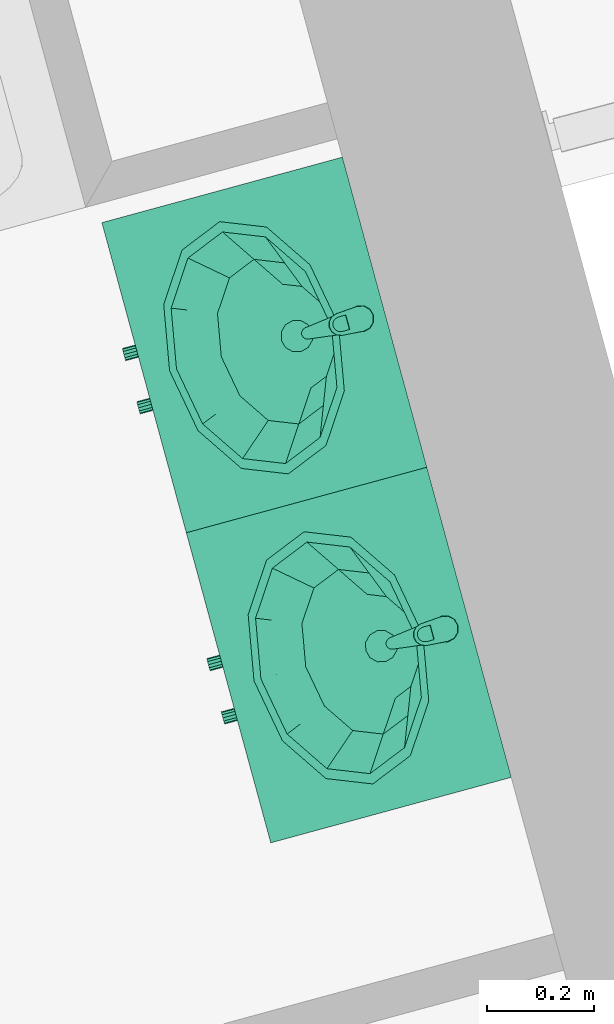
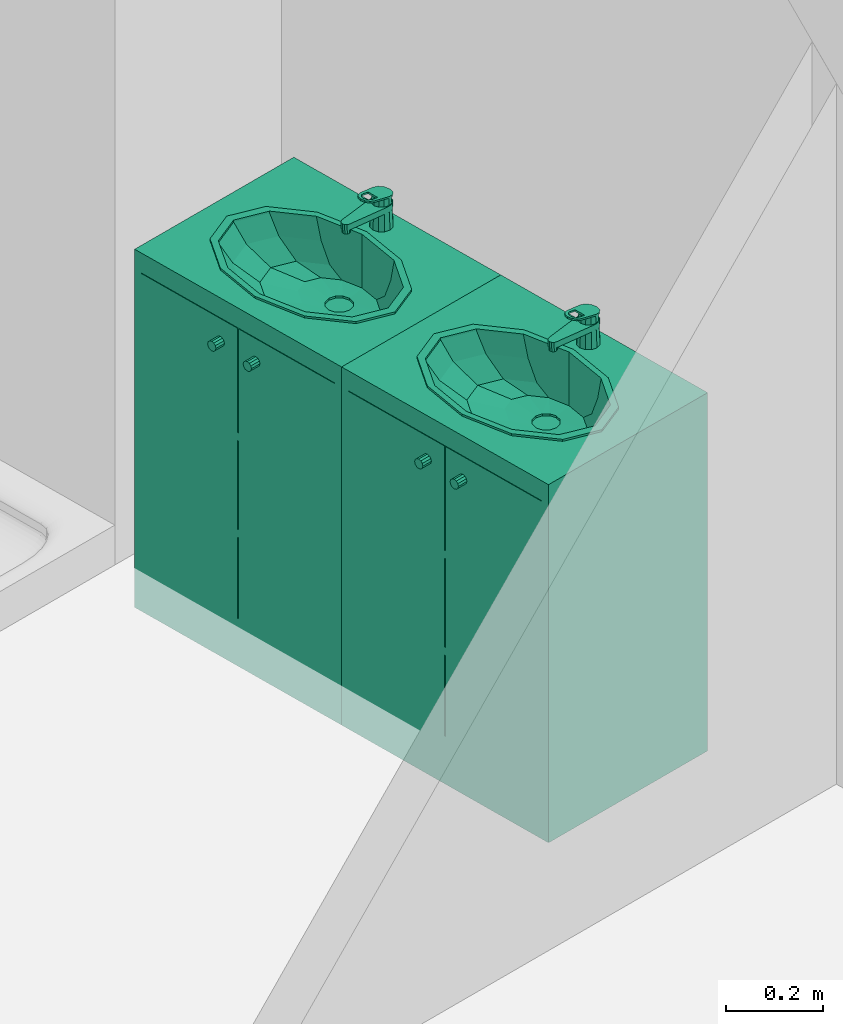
# One storey, part 93 of 121: 2 distribution elements.
"""IFC2X3 building model written with IfcOpenShell, lengths in metres."""

import ifcopenshell
import ifcopenshell.guid

model = None  # the IFC model being written
_history = None  # IfcOwnerHistory: only IFC2X3 demands one
_inside = {}  # id of a spatial element -> (the spatial element, [elements in it])
_under = {}  # id of a project, library or spatial element -> (it, [spatial elements below it])
_declared = {}  # id of a project -> (the project, [libraries it declares])
_typed = {}  # id of a type object -> (the type object, [elements of that type])
_made_of = {}  # id of a material, layer set ... -> (it, [elements and type objects made of it])


def new_model(schema):
    """Start an empty IFC model of exactly this schema.

    Asked for "IFC4X3", IfcOpenShell would pick the latest addendum, in which some entities
    have other attributes; the version numbers below select the first issue.
    IFC2X3 requires an IfcOwnerHistory on every rooted entity: one is made here for all.
    """
    global model, _history
    if schema == "IFC4X3":
        model = ifcopenshell.file(schema_version=(4, 3, 0, 0))
    else:
        model = ifcopenshell.file(schema=schema)
    _inside.clear()
    _under.clear()
    _declared.clear()
    _typed.clear()
    _made_of.clear()
    _history = None
    if model.schema == "IFC2X3":
        org = make("IfcOrganization", Name="unknown")
        user = make(
            "IfcPersonAndOrganization",
            ThePerson=make("IfcPerson", FamilyName="unknown"),
            TheOrganization=org,
        )
        app = make(
            "IfcApplication",
            ApplicationDeveloper=org,
            Version="unknown",
            ApplicationFullName="unknown",
            ApplicationIdentifier="unknown",
        )
        _history = make(
            "IfcOwnerHistory",
            OwningUser=user,
            OwningApplication=app,
            ChangeAction="ADDED",
            CreationDate=0,
        )
    return model


def make(cls, **values):
    """One entity of the class cls with the attributes given. An attribute that is None is left unset."""
    return model.create_entity(
        cls, **{name: value for name, value in values.items() if value is not None}
    )


def entity(cls, *values):
    """Any entity or typed value of the class cls, its attributes in the order of the schema. None: left unset."""
    e = model.create_entity(cls)
    for i, value in enumerate(values):
        if value is not None:
            e[i] = value
    return e


def rooted(cls, **values):
    """An entity with a GlobalId (a new one), such as an element, a storey or a relation."""
    return make(cls, GlobalId=ifcopenshell.guid.new(), OwnerHistory=_history, **values)


def si_unit(unit_type, name, prefix=None):
    """IfcSIUnit, for example si_unit("LENGTHUNIT", "METRE", prefix="MILLI")."""
    return make("IfcSIUnit", UnitType=unit_type, Prefix=prefix, Name=name)


def converted_unit(unit_type, name, factor, base, dimensions=None, offset=None):
    """IfcConversionBasedUnit, such as the inch: factor (a typed value) times the base unit."""
    return make(
        "IfcConversionBasedUnit"
        if offset is None
        else "IfcConversionBasedUnitWithOffset",
        ConversionOffset=offset,
        Dimensions=None
        if dimensions is None
        else entity("IfcDimensionalExponents", *dimensions),
        UnitType=unit_type,
        Name=name,
        ConversionFactor=make(
            "IfcMeasureWithUnit", ValueComponent=factor, UnitComponent=base
        ),
    )


def derived_unit(unit_type, elements):
    """IfcDerivedUnit: a product of units, each with its exponent."""
    return make(
        "IfcDerivedUnit",
        Elements=[
            make("IfcDerivedUnitElement", Unit=unit, Exponent=power)
            for unit, power in elements
        ],
        UnitType=unit_type,
    )


def money_unit(currency):
    """IfcMonetaryUnit."""
    return make("IfcMonetaryUnit", Currency=currency)


def assignment(units):
    """IfcUnitAssignment: the units of a project."""
    return None if units is None else make("IfcUnitAssignment", Units=units)


def point(xyz):
    """IfcCartesianPoint."""
    return None if xyz is None else make("IfcCartesianPoint", Coordinates=xyz)


def direction(xyz):
    """IfcDirection."""
    return None if xyz is None else make("IfcDirection", DirectionRatios=xyz)


def frame(location, z_axis=None, x_axis=None):
    """IfcAxis2Placement3D, a coordinate frame: its origin and axes. An axis left out is left unset."""
    return make(
        "IfcAxis2Placement3D",
        Location=point(location),
        Axis=direction(z_axis),
        RefDirection=direction(x_axis),
    )


def origin_with_axes():
    """The frame at (0, 0, 0) with the z axis (0, 0, 1) and the x axis (1, 0, 0) written out."""
    return frame((0.0, 0.0, 0.0), z_axis=(0.0, 0.0, 1.0), x_axis=(1.0, 0.0, 0.0))


def place(relative_to, where):
    """IfcLocalPlacement: puts the frame where relative to a parent placement (None: the world)."""
    return make(
        "IfcLocalPlacement", PlacementRelTo=relative_to, RelativePlacement=where
    )


def context(
    kind, dimensions, precision=None, world=None, true_north=None, identifier=None
):
    """IfcGeometricRepresentationContext, for example the 3D "Model" context."""
    return make(
        "IfcGeometricRepresentationContext",
        ContextIdentifier=identifier,
        ContextType=kind,
        CoordinateSpaceDimension=dimensions,
        Precision=precision,
        WorldCoordinateSystem=world,
        TrueNorth=true_north,
    )


def subcontext(parent, identifier, kind, view, scale=None):
    """IfcGeometricRepresentationSubContext, for example "Body" below "Model"."""
    return make(
        "IfcGeometricRepresentationSubContext",
        ContextIdentifier=identifier,
        ContextType=kind,
        ParentContext=parent,
        TargetScale=scale,
        TargetView=view,
    )


def project(units=None, contexts=None):
    """IfcProject with its units and contexts."""
    return rooted(
        "IfcProject",
        Name="project",
        RepresentationContexts=contexts,
        UnitsInContext=assignment(units),
    )


def spatial(cls, under=None, at=None, **own):
    """A site, building, storey or space (cls), placed at a placement, below another one or the project."""
    s = rooted(cls, ObjectPlacement=at, **own)
    if under is not None:
        _under.setdefault(under.id(), (under, []))[1].append(s)
    return s


def faces_of(points, faces, orient=None, outer=None):
    """IfcFace entities. A face is a list of loops; a loop is a list of indices into points, from 0.

    orient and outer hold one flag for each loop. By default every Orientation is true, the
    first loop of a face is its IfcFaceOuterBound and the others are IfcFaceBound.
    """
    made = []
    for i, loops in enumerate(faces):
        bounds = []
        for j, loop in enumerate(loops):
            is_outer = j == 0 if outer is None else outer[i][j]
            bounds.append(
                make(
                    "IfcFaceOuterBound" if is_outer else "IfcFaceBound",
                    Bound=make("IfcPolyLoop", Polygon=[points[k] for k in loop]),
                    Orientation=True if orient is None else orient[i][j],
                )
            )
        made.append(make("IfcFace", Bounds=bounds))
    return made


def open_shell(faces, orient=None, outer=None):
    """The faces of one IfcOpenShell. surface_model builds it on its shared points."""
    return ("IfcOpenShell", faces, orient, outer)


def faceted_brep(points, faces, orient=None, outer=None, voids=None):
    """IfcFacetedBrep: a solid bounded by flat faces; with voids (closed shells), ...WithVoids."""
    shared = [point(p) for p in points]
    hull = make("IfcClosedShell", CfsFaces=faces_of(shared, faces, orient, outer))
    if voids is None:
        return make("IfcFacetedBrep", Outer=hull)
    return make(
        "IfcFacetedBrepWithVoids",
        Outer=hull,
        Voids=[
            make(cls, CfsFaces=faces_of(shared, fs, o, b)) for cls, fs, o, b in voids
        ],
    )


def surface_model(cls, points, shells):
    """IfcFaceBasedSurfaceModel or IfcShellBasedSurfaceModel (cls): surfaces that need not close."""
    shared = [point(p) for p in points]
    made = [make(c, CfsFaces=faces_of(shared, fs, o, b)) for c, fs, o, b in shells]
    if cls == "IfcFaceBasedSurfaceModel":
        return make(cls, FbsmFaces=made)
    return make(cls, SbsmBoundary=made)


def shape(context_of_items, identifier, shape_type, items):
    """IfcShapeRepresentation: the items that make up one representation, for example the "Body"."""
    return make(
        "IfcShapeRepresentation",
        ContextOfItems=context_of_items,
        RepresentationIdentifier=identifier,
        RepresentationType=shape_type,
        Items=items,
    )


def source(mapping_origin, context_of_items, identifier, shape_type, items):
    """IfcRepresentationMap: a shape defined once, which mapped items show again and again."""
    return make(
        "IfcRepresentationMap",
        MappingOrigin=mapping_origin,
        MappedRepresentation=shape(context_of_items, identifier, shape_type, items),
    )


def transform(
    local_origin,
    x_axis=None,
    y_axis=None,
    z_axis=None,
    scale=None,
    scale2=None,
    scale3=None,
    uniform=True,
):
    """IfcCartesianTransformationOperator3D, or its non-uniform kind. x_axis, y_axis, z_axis: its Axis1, 2, 3."""
    if uniform:
        return make(
            "IfcCartesianTransformationOperator3D",
            Axis1=direction(x_axis),
            Axis2=direction(y_axis),
            LocalOrigin=point(local_origin),
            Scale=scale,
            Axis3=direction(z_axis),
        )
    return make(
        "IfcCartesianTransformationOperator3DnonUniform",
        Axis1=direction(x_axis),
        Axis2=direction(y_axis),
        LocalOrigin=point(local_origin),
        Scale=scale,
        Axis3=direction(z_axis),
        Scale2=scale2,
        Scale3=scale3,
    )


def mapped(mapping_source, mapping_target):
    """IfcMappedItem: shows the shape of a source again, moved by a transform."""
    return make(
        "IfcMappedItem", MappingSource=mapping_source, MappingTarget=mapping_target
    )


def made_of(thing, what):
    """Note that an element or type object is made of a material, layer set ...; save() writes the relation."""
    if what is not None:
        _made_of.setdefault(what.id(), (what, []))[1].append(thing)
    return thing


def type_object(cls, material=None, **own):
    """A type object (cls), such as IfcWallType, which elements share."""
    return made_of(rooted(cls, **own), material)


def element(
    cls,
    number,
    at=None,
    inside=None,
    cuts=None,
    type_object=None,
    material=None,
    context=None,
    identifier="Body",
    shape_type=None,
    held_by="IfcProductDefinitionShape",
    body=None,
    shapes=None,
    **own,
):
    """One element of the class cls, such as IfcWall. Its Tag is "e" and its number.

    at: its placement. inside: the storey or other place that contains it. cuts: it is an
    opening in that element (IfcRelVoidsElement). A single representation is given by context,
    identifier, shape_type and body (its items); several are given by shapes. held_by: the class
    of the entity that holds the representations. save() writes the other relations.
    """
    e = rooted(cls, Tag="e%d" % number, ObjectPlacement=at, **own)
    if body is not None:
        shapes = [shape(context, identifier, shape_type, body)]
    if shapes is not None:
        e.Representation = make(held_by, Representations=shapes)
    if inside is not None:
        _inside.setdefault(inside.id(), (inside, []))[1].append(e)
    if cuts is not None:
        rooted(
            "IfcRelVoidsElement", RelatingBuildingElement=cuts, RelatedOpeningElement=e
        )
    if type_object is not None:
        _typed.setdefault(type_object.id(), (type_object, []))[1].append(e)
    return made_of(e, material)


def aggregate(whole, parts):
    """IfcRelAggregates: a whole, such as a stair, and the parts it consists of."""
    return rooted("IfcRelAggregates", RelatingObject=whole, RelatedObjects=parts)


def save(model, path):
    """Write the relations noted so far, then the file.

    IfcRelAggregates (storeys below a building ...), IfcRelContainedInSpatialStructure (elements
    in a storey), IfcRelDefinesByType, IfcRelAssociatesMaterial and IfcRelDeclares: one each for
    every whole, place, type object, material and project.
    """
    for whole, parts in _under.values():
        aggregate(whole, parts)
    for where, things in _inside.values():
        rooted(
            "IfcRelContainedInSpatialStructure",
            RelatedElements=things,
            RelatingStructure=where,
        )
    for kind, things in _typed.values():
        rooted("IfcRelDefinesByType", RelatedObjects=things, RelatingType=kind)
    for what, things in _made_of.values():
        rooted("IfcRelAssociatesMaterial", RelatedObjects=things, RelatingMaterial=what)
    for by, libraries in _declared.values():
        rooted("IfcRelDeclares", RelatingContext=by, RelatedDefinitions=libraries)
    model.write(path)


model = new_model("IFC2X3")

# Units and contexts
model_context = context("Model", 3, precision=1e-05, world=origin_with_axes(), true_north=direction((0.0, 1.0)))
body_context = subcontext(model_context, "Body", "Model", "MODEL_VIEW")
ifc_project = project(units=[si_unit("LENGTHUNIT", "METRE"), si_unit("AREAUNIT", "SQUARE_METRE"), si_unit("VOLUMEUNIT", "CUBIC_METRE"), converted_unit("PLANEANGLEUNIT", "DEGREE", entity("IfcPlaneAngleMeasure", 0.0174532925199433), si_unit("PLANEANGLEUNIT", "RADIAN"), dimensions=[0, 0, 0, 0, 0, 0, 0]), money_unit("CHF"), converted_unit("TIMEUNIT", "Year", entity("IfcTimeMeasure", 31557600.0), si_unit("TIMEUNIT", "SECOND"), dimensions=[0, 0, 1, 0, 0, 0, 0]), si_unit("MASSUNIT", "GRAM", prefix="KILO"), si_unit("THERMODYNAMICTEMPERATUREUNIT", "DEGREE_CELSIUS"), si_unit("LUMINOUSINTENSITYUNIT", "LUMEN"), si_unit("ENERGYUNIT", "JOULE", prefix="MEGA"), derived_unit("THERMALCONDUCTANCEUNIT", [(si_unit("POWERUNIT", "WATT"), 1), (si_unit("LENGTHUNIT", "METRE"), -1), (si_unit("THERMODYNAMICTEMPERATUREUNIT", "KELVIN"), -1)]), derived_unit("SPECIFICHEATCAPACITYUNIT", [(si_unit("ENERGYUNIT", "JOULE"), 1), (si_unit("MASSUNIT", "GRAM", prefix="KILO"), -1), (si_unit("THERMODYNAMICTEMPERATUREUNIT", "KELVIN"), -1)]), derived_unit("MASSDENSITYUNIT", [(si_unit("MASSUNIT", "GRAM", prefix="KILO"), 1), (si_unit("VOLUMEUNIT", "CUBIC_METRE"), -1)])], contexts=[model_context])

# Site, building, storey
site_placement = place(None, origin_with_axes())
site = spatial("IfcSite", under=ifc_project, at=site_placement, Name="Site", CompositionType="ELEMENT")
building_placement = place(site_placement, origin_with_axes())
building = spatial("IfcBuilding", under=site, at=building_placement, Name="Bâtiment", CompositionType="ELEMENT")
storey_placement = place(building_placement, frame((0.0, 0.0, 2.75), z_axis=(0.0, 0.0, 1.0), x_axis=(1.0, 0.0, 0.0)))
storey = spatial("IfcBuildingStorey", under=building, at=storey_placement, Name="Etage 1", CompositionType="ELEMENT", Elevation=2.75)

# Distribution elements
distribution_element_type = type_object("IfcDistributionElementType", Name="Lavabo sur meuble 27")
shared_shape = source(origin_with_axes(), body_context, "Body", "SurfaceModel", [
    faceted_brep([(0.0, 0.0, 0.0), (0.0, 0.0, 0.1), (-0.6, 0.0, 0.1), (-0.6, 0.0, 0.0), (0.0, 0.4653441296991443, 0.0), (0.0, 0.4653441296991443, 0.1), (-0.6, 0.4653441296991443, 0.1), (-0.6, 0.4653441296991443, 0.0)], [[[0, 1, 2, 3]], [[4, 5, 1, 0]], [[1, 5, 6, 2]], [[3, 2, 6, 7]], [[0, 3, 7, 4]], [[7, 6, 5, 4]]]),
    faceted_brep([(0.0, 0.0, 0.1), (0.0, 0.0, 0.12), (-0.02, 0.0, 0.12), (-0.02, 0.0, 0.1), (0.0, 0.4653441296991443, 0.1), (0.0, 0.4653441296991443, 0.12), (-0.02, 0.4653441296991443, 0.12), (-0.58, 0.4653441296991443, 0.12), (-0.6, 0.4653441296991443, 0.12), (-0.6, 0.0, 0.12), (-0.58, 0.0, 0.12), (-0.58, 0.0, 0.1), (-0.6, 0.0, 0.1), (-0.6, 0.4653441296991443, 0.1), (-0.58, 0.4653441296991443, 0.1), (-0.02, 0.4653441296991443, 0.1)], [[[0, 1, 2, 3]], [[4, 5, 1, 0]], [[1, 5, 6, 7, 8, 9, 10, 2]], [[3, 2, 10, 11]], [[0, 3, 11, 12, 13, 14, 15, 4]], [[15, 6, 5, 4]], [[14, 7, 6, 15]], [[13, 8, 7, 14]], [[12, 9, 8, 13]], [[11, 10, 9, 12]]]),
    faceted_brep([(0.0, 0.0, 0.12), (0.0, 0.0, 0.85), (-0.02, 0.0, 0.85), (-0.02, 0.0, 0.12), (0.0, 0.4653441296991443, 0.12), (0.0, 0.4653441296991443, 0.85), (-0.6, 0.4653441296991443, 0.85), (-0.6, 0.0, 0.85), (-0.58, 0.0, 0.85), (-0.58, 0.4453441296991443, 0.85), (-0.02, 0.4453441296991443, 0.85), (-0.02, 0.4453441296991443, 0.12), (-0.58, 0.4453441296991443, 0.12), (-0.58, 0.0, 0.12), (-0.6, 0.0, 0.12), (-0.6, 0.4653441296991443, 0.12)], [[[0, 1, 2, 3]], [[4, 5, 1, 0]], [[1, 5, 6, 7, 8, 9, 10, 2]], [[3, 2, 10, 11]], [[0, 3, 11, 12, 13, 14, 15, 4]], [[15, 6, 5, 4]], [[14, 7, 6, 15]], [[13, 8, 7, 14]], [[12, 9, 8, 13]], [[11, 10, 9, 12]]]),
    faceted_brep([(-0.58, 0.0, 0.3233333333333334), (-0.58, 0.0, 0.3433333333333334), (-0.58, 0.4453441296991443, 0.3433333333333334), (-0.58, 0.4453441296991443, 0.3233333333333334), (-0.02, 0.0, 0.3233333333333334), (-0.02, 0.0, 0.3433333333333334), (-0.02, 0.4453441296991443, 0.3433333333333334), (-0.02, 0.4453441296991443, 0.3233333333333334)], [[[0, 1, 2, 3]], [[4, 5, 1, 0]], [[1, 5, 6, 2]], [[3, 2, 6, 7]], [[0, 3, 7, 4]], [[7, 6, 5, 4]]]),
    faceted_brep([(-0.58, 0.0, 0.5666666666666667), (-0.58, 0.0, 0.5866666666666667), (-0.58, 0.4453441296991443, 0.5866666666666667), (-0.58, 0.4453441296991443, 0.5666666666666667), (-0.02, 0.0, 0.5666666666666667), (-0.02, 0.0, 0.5866666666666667), (-0.02, 0.4453441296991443, 0.5866666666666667), (-0.02, 0.4453441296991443, 0.5666666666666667)], [[[0, 1, 2, 3]], [[4, 5, 1, 0]], [[1, 5, 6, 2]], [[3, 2, 6, 7]], [[0, 3, 7, 4]], [[7, 6, 5, 4]]]),
    faceted_brep([(0.0, 0.4653441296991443, 0.85), (0.0, 0.0, 0.85), (-0.6, 0.0, 0.85), (-0.6, 0.4653441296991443, 0.85), (-0.4124999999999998, 0.08276825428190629, 0.85), (-0.3, 0.06267206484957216, 0.85), (-0.1874999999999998, 0.08276825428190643, 0.85), (-0.1051442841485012, 0.1376720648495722, 0.85), (-0.07499999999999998, 0.2126720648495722, 0.85), (-0.1051442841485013, 0.2876720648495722, 0.85), (-0.1875000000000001, 0.342575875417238, 0.85), (-0.3, 0.3626720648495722, 0.85), (-0.4125, 0.3425758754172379, 0.85), (-0.4948557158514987, 0.2876720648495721, 0.85), (-0.525, 0.2126720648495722, 0.85), (-0.4948557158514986, 0.137672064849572, 0.85), (0.0, 0.4653441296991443, 0.9), (0.0, 0.0, 0.9), (-0.6, 0.0, 0.9), (-0.6, 0.4653441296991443, 0.9), (-0.3, 0.06267206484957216, 0.9), (-0.4124999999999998, 0.08276825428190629, 0.9), (-0.1874999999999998, 0.08276825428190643, 0.9), (-0.1051442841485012, 0.1376720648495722, 0.9), (-0.07499999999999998, 0.2126720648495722, 0.9), (-0.1051442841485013, 0.2876720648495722, 0.9), (-0.1875000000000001, 0.342575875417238, 0.9), (-0.3, 0.3626720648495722, 0.9), (-0.4125, 0.3425758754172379, 0.9), (-0.4948557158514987, 0.2876720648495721, 0.9), (-0.525, 0.2126720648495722, 0.9), (-0.4948557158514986, 0.137672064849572, 0.9)], [[[0, 1, 2, 3], [4, 5, 6, 7, 8, 9, 10, 11, 12, 13, 14, 15]], [[1, 0, 16, 17]], [[2, 1, 17, 18]], [[3, 2, 18, 19]], [[0, 3, 19, 16]], [[20, 5, 4, 21]], [[22, 6, 5, 20]], [[23, 7, 6, 22]], [[24, 8, 7, 23]], [[25, 9, 8, 24]], [[26, 10, 9, 25]], [[27, 11, 10, 26]], [[28, 12, 11, 27]], [[29, 13, 12, 28]], [[30, 14, 13, 29]], [[31, 15, 14, 30]], [[21, 4, 15, 31]], [[18, 17, 16, 19], [28, 27, 26, 25, 24, 23, 22, 20, 21, 31, 30, 29]]]),
    faceted_brep([(-0.544, 0.2126720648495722, 0.905), (-0.511310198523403, 0.2943684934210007, 0.905), (-0.511310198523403, 0.2943684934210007, 0.9), (-0.544, 0.2126720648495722, 0.9), (-0.5113101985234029, 0.1309756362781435, 0.905), (-0.4219999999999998, 0.07116969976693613, 0.905), (-0.3, 0.04927920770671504, 0.905), (-0.1779999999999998, 0.07116969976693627, 0.905), (-0.08868980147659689, 0.1309756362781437, 0.905), (-0.05599999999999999, 0.2126720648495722, 0.905), (-0.088689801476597, 0.2943684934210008, 0.905), (-0.178, 0.3541744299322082, 0.905), (-0.3, 0.3760649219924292, 0.905), (-0.422, 0.3541744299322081, 0.905), (-0.524, 0.2126720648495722, 0.905), (-0.4939896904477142, 0.2876720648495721, 0.905), (-0.412, 0.3425758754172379, 0.905), (-0.3, 0.3626720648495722, 0.905), (-0.1880000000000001, 0.342575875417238, 0.905), (-0.1060103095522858, 0.2876720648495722, 0.905), (-0.07599999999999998, 0.2126720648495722, 0.905), (-0.1060103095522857, 0.1376720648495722, 0.905), (-0.1879999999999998, 0.08276825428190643, 0.905), (-0.3, 0.06267206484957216, 0.905), (-0.4119999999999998, 0.08276825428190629, 0.905), (-0.4939896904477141, 0.137672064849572, 0.905), (-0.422, 0.3541744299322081, 0.9), (-0.3, 0.3760649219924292, 0.9), (-0.178, 0.3541744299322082, 0.9), (-0.088689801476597, 0.2943684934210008, 0.9), (-0.05599999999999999, 0.2126720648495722, 0.9), (-0.08868980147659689, 0.1309756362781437, 0.9), (-0.1779999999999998, 0.07116969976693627, 0.9), (-0.3, 0.04927920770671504, 0.9), (-0.4219999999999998, 0.07116969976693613, 0.9), (-0.5113101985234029, 0.1309756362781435, 0.9), (-0.524, 0.2126720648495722, 0.9), (-0.4939896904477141, 0.137672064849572, 0.9), (-0.4119999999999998, 0.08276825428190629, 0.9), (-0.3, 0.06267206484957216, 0.9), (-0.1879999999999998, 0.08276825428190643, 0.9), (-0.1060103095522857, 0.1376720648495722, 0.9), (-0.07599999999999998, 0.2126720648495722, 0.9), (-0.1060103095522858, 0.2876720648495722, 0.9), (-0.1880000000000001, 0.342575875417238, 0.9), (-0.3, 0.3626720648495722, 0.9), (-0.412, 0.3425758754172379, 0.9), (-0.4939896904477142, 0.2876720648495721, 0.9)], [[[0, 1, 2, 3]], [[0, 4, 5, 6, 7, 8, 9, 10, 11, 12, 13, 1], [14, 15, 16, 17, 18, 19, 20, 21, 22, 23, 24, 25]], [[1, 13, 26, 2]], [[3, 2, 26, 27, 28, 29, 30, 31, 32, 33, 34, 35], [36, 37, 38, 39, 40, 41, 42, 43, 44, 45, 46, 47]], [[4, 0, 3, 35]], [[5, 4, 35, 34]], [[6, 5, 34, 33]], [[7, 6, 33, 32]], [[8, 7, 32, 31]], [[9, 8, 31, 30]], [[10, 9, 30, 29]], [[11, 10, 29, 28]], [[12, 11, 28, 27]], [[13, 12, 27, 26]], [[15, 14, 36, 47]], [[16, 15, 47, 46]], [[17, 16, 46, 45]], [[18, 17, 45, 44]], [[19, 18, 44, 43]], [[20, 19, 43, 42]], [[21, 20, 42, 41]], [[22, 21, 41, 40]], [[23, 22, 40, 39]], [[24, 23, 39, 38]], [[25, 24, 38, 37]], [[14, 25, 37, 36]]]),
    surface_model("IfcShellBasedSurfaceModel", [(-0.3, 0.3626720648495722, 0.9), (-0.412, 0.342575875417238, 0.9), (-0.4008, 0.3445854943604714, 0.848), (-0.3, 0.3626720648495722, 0.848), (-0.4939896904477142, 0.2876720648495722, 0.9), (-0.4745907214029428, 0.2951720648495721, 0.848), (-0.1879999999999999, 0.3425758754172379, 0.9), (-0.1991999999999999, 0.3445854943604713, 0.848), (-0.524, 0.2126720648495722, 0.9), (-0.5016, 0.2276720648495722, 0.848), (-0.1060103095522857, 0.2876720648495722, 0.9), (-0.1254092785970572, 0.2951720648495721, 0.848), (-0.4939896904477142, 0.1376720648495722, 0.9), (-0.4745907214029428, 0.1601720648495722, 0.848), (-0.07599999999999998, 0.2126720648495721, 0.9), (-0.09839999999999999, 0.2276720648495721, 0.848), (-0.412, 0.08276825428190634, 0.9), (-0.4008, 0.1107586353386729, 0.848), (-0.1060103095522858, 0.1376720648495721, 0.9), (-0.1254092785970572, 0.1601720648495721, 0.848), (-0.3, 0.06267206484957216, 0.9), (-0.3, 0.09267206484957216, 0.848), (-0.1879999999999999, 0.08276825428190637, 0.9), (-0.1992, 0.110758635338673, 0.848)], [open_shell([[[0, 1, 2, 3]], [[1, 4, 5, 2]], [[6, 0, 3, 7]], [[4, 8, 9, 5]], [[10, 6, 7, 11]], [[8, 12, 13, 9]], [[14, 10, 11, 15]], [[12, 16, 17, 13]], [[18, 14, 15, 19]], [[16, 20, 21, 17]], [[22, 18, 19, 23]], [[20, 22, 23, 21]]])]),
    surface_model("IfcShellBasedSurfaceModel", [(-0.3, 0.3626720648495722, 0.848), (-0.4008, 0.3445854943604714, 0.848), (-0.379632, 0.3483836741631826, 0.7959999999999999), (-0.3, 0.3626720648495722, 0.7959999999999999), (-0.4745907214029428, 0.2951720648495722, 0.848), (-0.4379266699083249, 0.3093470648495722, 0.7959999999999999), (-0.1991999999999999, 0.3445854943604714, 0.848), (-0.2203679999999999, 0.3483836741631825, 0.7959999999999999), (-0.5016, 0.2276720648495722, 0.848), (-0.459264, 0.2560220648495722, 0.7959999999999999), (-0.1254092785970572, 0.2951720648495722, 0.848), (-0.1620733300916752, 0.3093470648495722, 0.7959999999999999), (-0.4745907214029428, 0.1601720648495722, 0.848), (-0.4379266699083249, 0.2026970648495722, 0.7959999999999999), (-0.09839999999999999, 0.2276720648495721, 0.848), (-0.140736, 0.2560220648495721, 0.7959999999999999), (-0.4008, 0.1107586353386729, 0.848), (-0.379632, 0.1636604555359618, 0.7959999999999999), (-0.1254092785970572, 0.1601720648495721, 0.848), (-0.1620733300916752, 0.2026970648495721, 0.7959999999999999), (-0.3, 0.09267206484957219, 0.848), (-0.3, 0.1493720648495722, 0.7959999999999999), (-0.1992, 0.110758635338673, 0.848), (-0.220368, 0.1636604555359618, 0.7959999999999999)], [open_shell([[[0, 1, 2, 3]], [[1, 4, 5, 2]], [[6, 0, 3, 7]], [[4, 8, 9, 5]], [[10, 6, 7, 11]], [[8, 12, 13, 9]], [[14, 10, 11, 15]], [[12, 16, 17, 13]], [[18, 14, 15, 19]], [[16, 20, 21, 17]], [[22, 18, 19, 23]], [[20, 22, 23, 21]]])]),
    surface_model("IfcShellBasedSurfaceModel", [(-0.3, 0.3626720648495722, 0.7959999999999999), (-0.379632, 0.3483836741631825, 0.7959999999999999), (-0.35016816, 0.3536703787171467, 0.7699999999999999), (-0.3, 0.3626720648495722, 0.7699999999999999), (-0.4379266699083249, 0.3093470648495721, 0.7959999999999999), (-0.3868938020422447, 0.3290773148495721, 0.7699999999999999), (-0.2203679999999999, 0.3483836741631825, 0.7959999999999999), (-0.2498318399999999, 0.3536703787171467, 0.7699999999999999), (-0.459264, 0.2560220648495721, 0.7959999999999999), (-0.40033632, 0.2954825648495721, 0.7699999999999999), (-0.1620733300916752, 0.3093470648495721, 0.7959999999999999), (-0.2131061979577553, 0.3290773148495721, 0.7699999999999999), (-0.4379266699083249, 0.2026970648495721, 0.7959999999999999), (-0.3868938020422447, 0.2618878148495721, 0.7699999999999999), (-0.140736, 0.2560220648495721, 0.7959999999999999), (-0.19966368, 0.2954825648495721, 0.7699999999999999), (-0.379632, 0.1636604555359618, 0.7959999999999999), (-0.35016816, 0.2372947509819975, 0.7699999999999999), (-0.1620733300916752, 0.2026970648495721, 0.7959999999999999), (-0.2131061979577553, 0.2618878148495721, 0.7699999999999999), (-0.3, 0.1493720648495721, 0.7959999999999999), (-0.3, 0.2282930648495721, 0.7699999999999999), (-0.220368, 0.1636604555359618, 0.7959999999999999), (-0.24983184, 0.2372947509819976, 0.7699999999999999)], [open_shell([[[0, 1, 2, 3]], [[1, 4, 5, 2]], [[6, 0, 3, 7]], [[4, 8, 9, 5]], [[10, 6, 7, 11]], [[8, 12, 13, 9]], [[14, 10, 11, 15]], [[12, 16, 17, 13]], [[18, 14, 15, 19]], [[16, 20, 21, 17]], [[22, 18, 19, 23]], [[20, 22, 23, 21]]])]),
    surface_model("IfcShellBasedSurfaceModel", [(-0.3, 0.3626720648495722, 0.7699999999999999), (-0.35016816, 0.3536703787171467, 0.7699999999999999), (-0.315, 0.3214633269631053, 0.7629999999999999), (-0.3259807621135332, 0.3104825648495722, 0.7629999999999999), (-0.3, 0.3254825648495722, 0.7629999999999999), (-0.3868938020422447, 0.3290773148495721, 0.7699999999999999), (-0.2498318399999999, 0.3536703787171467, 0.7699999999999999), (-0.33, 0.2954825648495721, 0.7629999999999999), (-0.285, 0.3214633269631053, 0.7629999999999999), (-0.40033632, 0.2954825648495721, 0.7699999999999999), (-0.2131061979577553, 0.3290773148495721, 0.7699999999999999), (-0.3259807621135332, 0.2804825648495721, 0.7629999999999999), (-0.2740192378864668, 0.3104825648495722, 0.7629999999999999), (-0.3868938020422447, 0.2618878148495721, 0.7699999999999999), (-0.19966368, 0.2954825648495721, 0.7699999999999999), (-0.315, 0.269501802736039, 0.7629999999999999), (-0.27, 0.2954825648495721, 0.7629999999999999), (-0.35016816, 0.2372947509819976, 0.7699999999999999), (-0.2131061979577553, 0.2618878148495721, 0.7699999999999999), (-0.3, 0.2654825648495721, 0.7629999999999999), (-0.2740192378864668, 0.2804825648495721, 0.7629999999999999), (-0.3, 0.2282930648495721, 0.7699999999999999), (-0.24983184, 0.2372947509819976, 0.7699999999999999), (-0.285, 0.269501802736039, 0.7629999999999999)], [open_shell([[[0, 1, 2]], [[1, 3, 2]], [[0, 2, 4]], [[1, 5, 3]], [[6, 0, 4]], [[5, 7, 3]], [[6, 4, 8]], [[5, 9, 7]], [[10, 6, 8]], [[9, 11, 7]], [[10, 8, 12]], [[9, 13, 11]], [[14, 10, 12]], [[13, 15, 11]], [[14, 12, 16]], [[13, 17, 15]], [[18, 14, 16]], [[17, 19, 15]], [[18, 16, 20]], [[17, 21, 19]], [[22, 18, 20]], [[21, 23, 19]], [[22, 20, 23]], [[21, 22, 23]]])]),
    surface_model("IfcShellBasedSurfaceModel", [(-0.33, 0.2954825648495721, 0.763), (-0.3259807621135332, 0.3104825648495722, 0.763), (-0.3259807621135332, 0.3104825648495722, 0.758), (-0.33, 0.2954825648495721, 0.758), (-0.315, 0.3214633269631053, 0.763), (-0.315, 0.3214633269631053, 0.758), (-0.3, 0.3254825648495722, 0.758), (-0.285, 0.3214633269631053, 0.758), (-0.2740192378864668, 0.3104825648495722, 0.758), (-0.27, 0.2954825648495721, 0.758), (-0.2740192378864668, 0.2804825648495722, 0.758), (-0.285, 0.269501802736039, 0.758), (-0.3, 0.2654825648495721, 0.758), (-0.3149999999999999, 0.269501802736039, 0.758), (-0.3259807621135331, 0.2804825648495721, 0.758), (-0.3259807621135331, 0.2804825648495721, 0.763), (-0.3, 0.3254825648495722, 0.763), (-0.285, 0.3214633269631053, 0.763), (-0.2740192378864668, 0.3104825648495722, 0.763), (-0.27, 0.2954825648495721, 0.763), (-0.2740192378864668, 0.2804825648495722, 0.763), (-0.285, 0.269501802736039, 0.763), (-0.3, 0.2654825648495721, 0.763), (-0.3149999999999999, 0.269501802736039, 0.763)], [open_shell([[[0, 1, 2, 3]], [[1, 4, 5, 2]], [[3, 2, 5, 6, 7, 8, 9, 10, 11, 12, 13, 14]], [[15, 0, 3, 14]], [[4, 16, 6, 5]], [[16, 17, 7, 6]], [[17, 18, 8, 7]], [[18, 19, 9, 8]], [[19, 20, 10, 9]], [[20, 21, 11, 10]], [[21, 22, 12, 11]], [[22, 23, 13, 12]], [[23, 15, 14, 13]]])]),
    faceted_brep([(-0.3125, 0.4406587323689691, 0.9), (-0.310587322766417, 0.4373458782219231, 0.976507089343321), (-0.3, 0.4402100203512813, 0.9759615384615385), (-0.3, 0.4440080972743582, 0.9), (-0.3216506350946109, 0.4315080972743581, 0.9), (-0.3182735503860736, 0.4295583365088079, 0.9779904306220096), (-0.321, 0.4190080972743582, 0.98), (-0.3181003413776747, 0.4085578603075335, 0.9819905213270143), (-0.3104141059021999, 0.400970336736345, 0.9834357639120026), (-0.3, 0.3982062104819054, 0.9839622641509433), (-0.2895858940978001, 0.400970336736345, 0.9834357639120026), (-0.2818996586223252, 0.4085578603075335, 0.9819905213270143), (-0.279, 0.4190080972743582, 0.98), (-0.2817264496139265, 0.4295583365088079, 0.9779904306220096), (-0.289412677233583, 0.4373458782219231, 0.976507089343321), (-0.2875, 0.4406587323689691, 0.9), (-0.278349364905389, 0.4315080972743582, 0.9), (-0.275, 0.4190080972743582, 0.9), (-0.278349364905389, 0.4065080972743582, 0.9), (-0.2875, 0.3973574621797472, 0.9), (-0.3, 0.3940080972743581, 0.9), (-0.3125, 0.3973574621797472, 0.9), (-0.3216506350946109, 0.4065080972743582, 0.9), (-0.325, 0.4190080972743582, 0.9)], [[[0, 1, 2, 3]], [[4, 5, 1, 0]], [[1, 5, 6, 7, 8, 9, 10, 11, 12, 13, 14, 2]], [[3, 2, 14, 15]], [[0, 3, 15, 16, 17, 18, 19, 20, 21, 22, 23, 4]], [[23, 6, 5, 4]], [[22, 7, 6, 23]], [[21, 8, 7, 22]], [[20, 9, 8, 21]], [[19, 10, 9, 20]], [[18, 11, 10, 19]], [[17, 12, 11, 18]], [[16, 13, 12, 17]], [[15, 14, 13, 16]]]),
    faceted_brep([(-0.309, 0.3160080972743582, 0.935), (-0.309, 0.3160080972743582, 0.9450000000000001), (-0.3077942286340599, 0.3205080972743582, 0.9450000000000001), (-0.3077942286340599, 0.3205080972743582, 0.935), (-0.3077942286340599, 0.3115080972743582, 0.935), (-0.3077942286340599, 0.3115080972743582, 0.9450000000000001), (-0.3045, 0.3082138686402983, 0.9450000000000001), (-0.3, 0.3070080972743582, 0.9450000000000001), (-0.2955, 0.3082138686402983, 0.9450000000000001), (-0.2922057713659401, 0.3115080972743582, 0.9450000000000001), (-0.291, 0.3160080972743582, 0.9450000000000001), (-0.2922057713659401, 0.3205080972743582, 0.9450000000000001), (-0.2955, 0.3238023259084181, 0.9450000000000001), (-0.3, 0.3250080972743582, 0.9450000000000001), (-0.3045, 0.3238023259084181, 0.9450000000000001), (-0.3045, 0.3238023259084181, 0.935), (-0.3, 0.3250080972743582, 0.935), (-0.2955, 0.3238023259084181, 0.935), (-0.2922057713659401, 0.3205080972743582, 0.935), (-0.291, 0.3160080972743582, 0.935), (-0.2922057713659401, 0.3115080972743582, 0.935), (-0.2955, 0.3082138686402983, 0.935), (-0.3, 0.3070080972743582, 0.935), (-0.3045, 0.3082138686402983, 0.935)], [[[0, 1, 2, 3]], [[4, 5, 1, 0]], [[1, 5, 6, 7, 8, 9, 10, 11, 12, 13, 14, 2]], [[3, 2, 14, 15]], [[0, 3, 15, 16, 17, 18, 19, 20, 21, 22, 23, 4]], [[23, 6, 5, 4]], [[22, 7, 6, 23]], [[21, 8, 7, 22]], [[20, 9, 8, 21]], [[19, 10, 9, 20]], [[18, 11, 10, 19]], [[17, 12, 11, 18]], [[16, 13, 12, 17]], [[15, 14, 13, 16]]]),
    faceted_brep([(-0.2871282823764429, 0.439264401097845, 0.9600000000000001), (-0.300000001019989, 0.44300807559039, 0.9600000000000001), (-0.3128717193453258, 0.4392644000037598, 0.9600000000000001), (-0.3217278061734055, 0.4292013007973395, 0.9600000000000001), (-0.3238053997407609, 0.4159581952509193, 0.9600000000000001), (-0.310912, 0.3146197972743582, 0.9600000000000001), (-0.309028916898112, 0.3097249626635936, 0.9600000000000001), (-0.3050933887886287, 0.3062584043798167, 0.9600000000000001), (-0.300000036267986, 0.305008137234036, 0.9600000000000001), (-0.2949066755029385, 0.3062583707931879, 0.9600000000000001), (-0.2909711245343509, 0.3097249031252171, 0.9600000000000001), (-0.2890880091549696, 0.3146197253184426, 0.9600000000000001), (-0.2761946, 0.4159581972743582, 0.9600000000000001), (-0.2782721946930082, 0.4292013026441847, 0.9600000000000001), (-0.311, 0.4380606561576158, 0.9600000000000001), (-0.3, 0.4410080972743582, 0.9600000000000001), (-0.289, 0.4380606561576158, 0.9600000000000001), (-0.2809474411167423, 0.4300080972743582, 0.9600000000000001), (-0.278, 0.4190080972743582, 0.9600000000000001), (-0.2809474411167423, 0.4080080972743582, 0.9600000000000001), (-0.289, 0.3999555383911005, 0.9600000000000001), (-0.3, 0.3970080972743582, 0.9600000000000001), (-0.3109999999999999, 0.3999555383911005, 0.9600000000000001), (-0.3190525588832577, 0.4080080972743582, 0.9600000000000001), (-0.322, 0.4190080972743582, 0.9600000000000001), (-0.3190525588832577, 0.4300080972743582, 0.9600000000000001), (-0.2871282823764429, 0.439264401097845, 0.9450000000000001), (-0.300000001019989, 0.44300807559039, 0.9450000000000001), (-0.3128717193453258, 0.4392644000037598, 0.9450000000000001), (-0.3217278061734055, 0.4292013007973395, 0.9450000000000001), (-0.3238053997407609, 0.4159581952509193, 0.9450000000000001), (-0.310912, 0.3146197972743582, 0.9450000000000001), (-0.309028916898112, 0.3097249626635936, 0.9450000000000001), (-0.3050933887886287, 0.3062584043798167, 0.9450000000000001), (-0.300000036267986, 0.305008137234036, 0.9450000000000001), (-0.2949066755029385, 0.3062583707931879, 0.9450000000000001), (-0.2909711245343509, 0.3097249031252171, 0.9450000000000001), (-0.2890880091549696, 0.3146197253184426, 0.9450000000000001), (-0.2761946, 0.4159581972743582, 0.9450000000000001), (-0.2782721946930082, 0.4292013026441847, 0.9450000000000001), (-0.3, 0.4417580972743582, 0.9450000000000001), (-0.311375, 0.4387101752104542, 0.9450000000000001), (-0.288625, 0.4387101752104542, 0.9450000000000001), (-0.280297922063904, 0.4303830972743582, 0.9450000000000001), (-0.2772499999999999, 0.4190080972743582, 0.9450000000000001), (-0.280297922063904, 0.4076330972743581, 0.9450000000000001), (-0.288625, 0.3993060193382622, 0.9450000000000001), (-0.3, 0.3962580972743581, 0.9450000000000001), (-0.311375, 0.3993060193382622, 0.9450000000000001), (-0.319702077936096, 0.4076330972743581, 0.9450000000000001), (-0.32275, 0.4190080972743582, 0.9450000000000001), (-0.319702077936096, 0.4303830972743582, 0.9450000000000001)], [[[0, 1, 2, 3, 4, 5, 6, 7, 8, 9, 10, 11, 12, 13], [14, 15, 16, 17, 18, 19, 20, 21, 22, 23, 24, 25]], [[26, 27, 1, 0]], [[27, 28, 2, 1]], [[28, 29, 3, 2]], [[29, 30, 4, 3]], [[30, 31, 5, 4]], [[31, 32, 6, 5]], [[32, 33, 7, 6]], [[33, 34, 8, 7]], [[34, 35, 9, 8]], [[35, 36, 10, 9]], [[36, 37, 11, 10]], [[37, 38, 12, 11]], [[38, 39, 13, 12]], [[39, 26, 0, 13]], [[40, 15, 14, 41]], [[42, 16, 15, 40]], [[16, 42, 43, 17]], [[17, 43, 44, 18]], [[18, 44, 45, 19]], [[19, 45, 46, 20]], [[20, 46, 47, 21]], [[48, 22, 21, 47]], [[49, 23, 22, 48]], [[50, 24, 23, 49]], [[51, 25, 24, 50]], [[41, 14, 25, 51]], [[34, 33, 32, 31, 30, 29, 28, 27, 26, 39, 38, 37, 36, 35], [48, 47, 46, 45, 44, 43, 42, 40, 41, 51, 50, 49]]]),
    faceted_brep([(-0.323893, 0.4173155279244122, 0.9803223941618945), (-0.323893, 0.4180639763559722, 0.9842517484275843), (-0.3212964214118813, 0.4305312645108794, 0.9818770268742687), (-0.3212964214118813, 0.4297828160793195, 0.9779476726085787), (-0.3209459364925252, 0.377171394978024, 0.9879688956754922), (-0.3209459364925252, 0.377919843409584, 0.9918982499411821), (-0.317663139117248, 0.3682421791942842, 0.9937416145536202), (-0.3100614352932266, 0.3612927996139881, 0.995065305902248), (-0.2999995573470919, 0.3587709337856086, 0.9955456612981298), (-0.289937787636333, 0.3612932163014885, 0.9950652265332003), (-0.2823363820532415, 0.3682429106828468, 0.9937414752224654), (-0.279054, 0.3779207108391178, 0.991898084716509), (-0.2761069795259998, 0.4180642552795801, 0.9842516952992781), (-0.2787037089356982, 0.4305315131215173, 0.9818769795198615), (-0.2875283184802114, 0.4398477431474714, 0.9801024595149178), (-0.3000001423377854, 0.4432885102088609, 0.9794470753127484), (-0.3124719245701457, 0.4398475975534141, 0.9801024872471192), (-0.314, 0.3942157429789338, 0.9887942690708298), (-0.286, 0.3942157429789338, 0.9887942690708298), (-0.286, 0.3794001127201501, 0.9916162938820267), (-0.2878756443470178, 0.3725237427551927, 0.9929260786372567), (-0.293, 0.3674898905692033, 0.9938849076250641), (-0.3, 0.3656473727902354, 0.9942358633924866), (-0.307, 0.3674898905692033, 0.9938849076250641), (-0.3121243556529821, 0.3725237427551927, 0.9929260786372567), (-0.314, 0.3794001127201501, 0.9916162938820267), (-0.3124719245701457, 0.4390991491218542, 0.9761731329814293), (-0.3000001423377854, 0.4425400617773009, 0.9755177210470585), (-0.2875283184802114, 0.4390992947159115, 0.976173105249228), (-0.2787037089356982, 0.4297830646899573, 0.9779476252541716), (-0.2761069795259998, 0.4173158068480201, 0.9803223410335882), (-0.279054, 0.3771722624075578, 0.9879687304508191), (-0.2823363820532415, 0.3674944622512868, 0.9898121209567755), (-0.289937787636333, 0.3605447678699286, 0.9911358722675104), (-0.2999995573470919, 0.3580224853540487, 0.9916163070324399), (-0.3100614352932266, 0.3605443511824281, 0.9911359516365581), (-0.317663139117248, 0.3674937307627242, 0.9898122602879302), (-0.314, 0.3934672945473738, 0.9848649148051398), (-0.314, 0.37865166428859, 0.9876869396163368), (-0.3121243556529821, 0.3717752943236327, 0.9889967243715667), (-0.307, 0.3667414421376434, 0.9899555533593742), (-0.3, 0.3648989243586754, 0.9903065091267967), (-0.293, 0.3667414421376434, 0.9899555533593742), (-0.2878756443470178, 0.3717752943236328, 0.9889967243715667), (-0.286, 0.37865166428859, 0.9876869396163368), (-0.286, 0.3934672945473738, 0.9848649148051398)], [[[0, 1, 2, 3]], [[4, 5, 1, 0]], [[1, 5, 6, 7, 8, 9, 10, 11, 12, 13, 14, 15, 16, 2], [17, 18, 19, 20, 21, 22, 23, 24, 25]], [[3, 2, 16, 26]], [[0, 3, 26, 27, 28, 29, 30, 31, 32, 33, 34, 35, 36, 4], [37, 38, 39, 40, 41, 42, 43, 44, 45]], [[36, 6, 5, 4]], [[35, 7, 6, 36]], [[34, 8, 7, 35]], [[33, 9, 8, 34]], [[32, 10, 9, 33]], [[31, 11, 10, 32]], [[30, 12, 11, 31]], [[29, 13, 12, 30]], [[28, 14, 13, 29]], [[27, 15, 14, 28]], [[26, 16, 15, 27]], [[45, 18, 17, 37]], [[44, 19, 18, 45]], [[43, 20, 19, 44]], [[42, 21, 20, 43]], [[41, 22, 21, 42]], [[40, 23, 22, 41]], [[39, 24, 23, 40]], [[38, 25, 24, 39]], [[37, 17, 25, 38]]]),
    surface_model("IfcShellBasedSurfaceModel", [(-0.001500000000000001, 0.0, 0.1015), (-0.2985, 0.0, 0.1015), (-0.2985, 0.0, 0.8485), (-0.001500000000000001, 0.0, 0.8485)], [open_shell([[[0, 1, 2, 3]]])]),
    faceted_brep([(-0.2588923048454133, 0.0, 0.7855), (-0.2605, 0.0, 0.7915), (-0.2588923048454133, 0.0, 0.7975), (-0.2545, 0.0, 0.8018923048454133), (-0.2485, 0.0, 0.8035), (-0.2425, 0.0, 0.8018923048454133), (-0.2381076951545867, 0.0, 0.7975), (-0.2365, 0.0, 0.7915), (-0.2381076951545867, 0.0, 0.7855), (-0.2425, 0.0, 0.7811076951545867), (-0.2485, 0.0, 0.7795), (-0.2545, 0.0, 0.7811076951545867), (-0.2588923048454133, -0.025, 0.7855), (-0.2605, -0.025, 0.7915), (-0.2588923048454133, -0.025, 0.7975), (-0.2545, -0.025, 0.8018923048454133), (-0.2485, -0.025, 0.8035), (-0.2425, -0.025, 0.8018923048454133), (-0.2381076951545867, -0.025, 0.7975), (-0.2365, -0.025, 0.7915), (-0.2381076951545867, -0.025, 0.7855), (-0.2425, -0.025, 0.7811076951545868), (-0.2485, -0.025, 0.7795), (-0.2545, -0.025, 0.7811076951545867)], [[[0, 1, 2, 3, 4, 5, 6, 7, 8, 9, 10, 11]], [[0, 12, 13, 1]], [[1, 13, 14, 2]], [[2, 14, 15, 3]], [[3, 15, 16, 4]], [[4, 16, 17, 5]], [[5, 17, 18, 6]], [[6, 18, 19, 7]], [[7, 19, 20, 8]], [[8, 20, 21, 9]], [[9, 21, 22, 10]], [[10, 22, 23, 11]], [[11, 23, 12, 0]], [[12, 23, 22, 21, 20, 19, 18, 17, 16, 15, 14, 13]]]),
    surface_model("IfcShellBasedSurfaceModel", [(-0.5985, 0.0, 0.1015), (-0.5985, 0.0, 0.8485), (-0.3015000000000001, 0.0, 0.8485), (-0.3015000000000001, 0.0, 0.1015)], [open_shell([[[0, 1, 2, 3]]])]),
    faceted_brep([(-0.3411076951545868, 0.0, 0.7855), (-0.3455, 0.0, 0.7811076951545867), (-0.3515, 0.0, 0.7795), (-0.3575, 0.0, 0.7811076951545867), (-0.3618923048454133, 0.0, 0.7855), (-0.3635, 0.0, 0.7915), (-0.3618923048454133, 0.0, 0.7975), (-0.3575, 0.0, 0.8018923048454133), (-0.3515, 0.0, 0.8035), (-0.3455, 0.0, 0.8018923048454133), (-0.3411076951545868, 0.0, 0.7975), (-0.3395, 0.0, 0.7915), (-0.3411076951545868, -0.025, 0.7855), (-0.3455, -0.025, 0.7811076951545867), (-0.3515, -0.025, 0.7795), (-0.3575, -0.025, 0.7811076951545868), (-0.3618923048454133, -0.025, 0.7855), (-0.3635, -0.025, 0.7915), (-0.3618923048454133, -0.025, 0.7975), (-0.3575, -0.025, 0.8018923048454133), (-0.3515, -0.025, 0.8035), (-0.3455, -0.025, 0.8018923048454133), (-0.3411076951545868, -0.025, 0.7975), (-0.3395, -0.025, 0.7915)], [[[0, 1, 2, 3, 4, 5, 6, 7, 8, 9, 10, 11]], [[1, 0, 12, 13]], [[2, 1, 13, 14]], [[3, 2, 14, 15]], [[4, 3, 15, 16]], [[5, 4, 16, 17]], [[6, 5, 17, 18]], [[7, 6, 18, 19]], [[8, 7, 19, 20]], [[9, 8, 20, 21]], [[10, 9, 21, 22]], [[11, 10, 22, 23]], [[0, 11, 23, 12]], [[12, 23, 22, 21, 20, 19, 18, 17, 16, 15, 14, 13]]]),
])
for number, where, z_axis, x_axis, name in (
    (1, (9595.254214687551, -1053.703527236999, 57.59999999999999), (0.0, 0.0, 1.0), (0.2627340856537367, -0.9648682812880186, 0.0), "Obj.-004"),
    (2, (9595.411855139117, -1054.282448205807, 57.59999999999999), (0.0, 0.0, 1.0), (0.2627340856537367, -0.9648682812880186, 0.0), "Obj.-004"),
):
    element("IfcDistributionElement", number, at=place(storey_placement, frame(where, z_axis=z_axis, x_axis=x_axis)), inside=storey, type_object=distribution_element_type, Name=name, context=body_context, shape_type="MappedRepresentation", body=[
        mapped(shared_shape, transform((0.0, 0.0, 0.0))),
    ])

save(model, "model.ifc")
